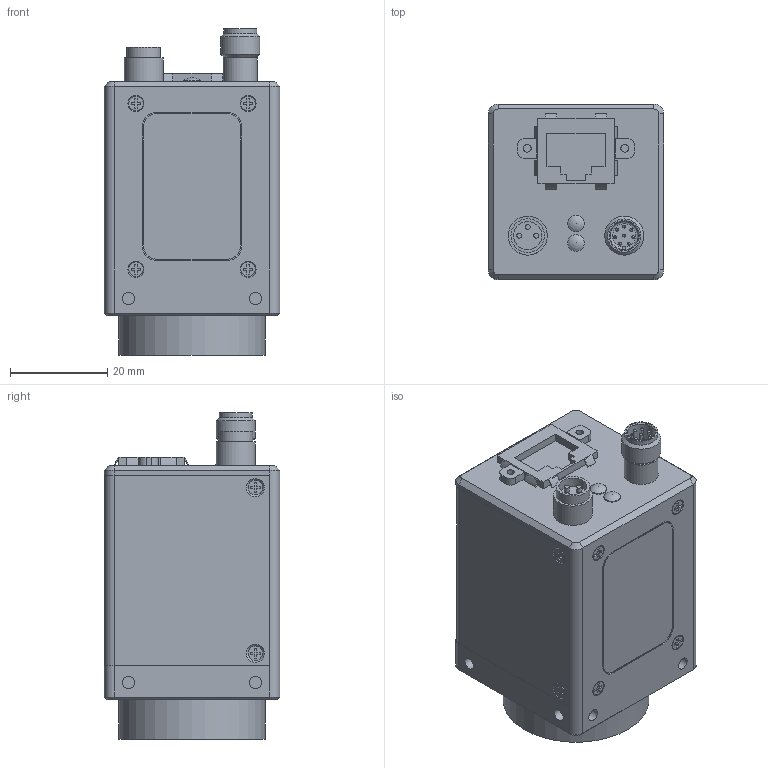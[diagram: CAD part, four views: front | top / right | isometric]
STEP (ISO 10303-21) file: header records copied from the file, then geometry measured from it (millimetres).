
FILE_DESCRIPTION( ( 'Unknown' ), '1' );
FILE_NAME( 'Y:/11000000/11004410 Volumenmodell 100831.stp', 'Unknown', ( 'Unknown' ), ( 'Unknown' ), 'PSStep 13.0', 'Unknown', ' ' );
FILE_SCHEMA( ( 'AUTOMOTIVE_DESIGN { 1 0 10303 214 1 1 1 1 }' ) );
Length unit declared in the file: millimetre
Products named in the file (1): 11036870
Bounding box: 36 x 36 x 67 mm (x, y, z)
Volume: 63015.8 mm3; surface area: 12359.3 mm2
Topology: 1 solids, 2 shells, 392 faces, 961 edges, 628 vertices
Faces by surface type: plane 250, cylinder 97, cone 33, bspline 8, sphere 2, torus 2
Full cylindrical faces by diameter (mm): 0.6 x8, 1 x3, 1.18 x4, 1.567 x2, 1.7 x4, 2.5 x12, 3 x8, 3.4 x2, 5.8 x1, 6.8 x1, 6.9 x1, 7 x1, 8 x2, 24.6 x1, 26.5 x2, 30 x1
Entity records: 13416 total; most frequent: CARTESIAN_POINT 2175, DIRECTION 1840, ORIENTED_EDGE 1666, EDGE_CURVE 833, AXIS2_PLACEMENT_3D 626, VERTEX_POINT 589, LINE 588, VECTOR 588
